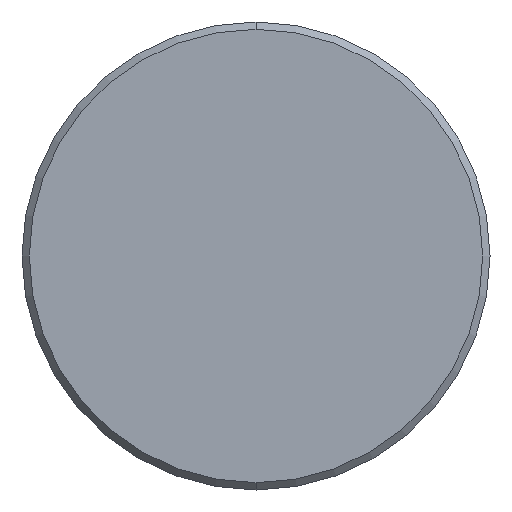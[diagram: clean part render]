
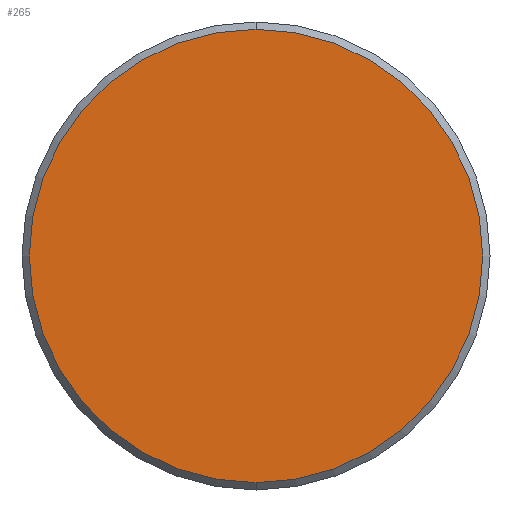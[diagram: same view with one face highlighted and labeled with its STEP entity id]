
A CAD part, front view. The second image highlights one B-rep face of the part: STEP entity #265.
In plain terms, the highlighted planar face has unit normal (0, -1, 0).
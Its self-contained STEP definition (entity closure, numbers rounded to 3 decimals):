
#1 = FACE_OUTER_BOUND ( 'NONE', #210, .T. ) ;
#4 = ORIENTED_EDGE ( 'NONE', *, *, #157, .T. ) ;
#27 = DIRECTION ( 'NONE',  ( 0., 0., 1. ) ) ;
#36 = EDGE_CURVE ( 'NONE', #125, #225, #169, .T. ) ;
#51 = AXIS2_PLACEMENT_3D ( 'NONE', #194, #105, #27 ) ;
#57 = DIRECTION ( 'NONE',  ( 0., -1., 0. ) ) ;
#73 = CARTESIAN_POINT ( 'NONE',  ( 0., 0., 0. ) ) ;
#76 = CARTESIAN_POINT ( 'NONE',  ( 0., 0., -3.875 ) ) ;
#82 = PLANE ( 'NONE',  #51 ) ;
#85 = CARTESIAN_POINT ( 'NONE',  ( 0., 0., 3.875 ) ) ;
#90 = DIRECTION ( 'NONE',  ( 0., -1., 0. ) ) ;
#105 = DIRECTION ( 'NONE',  ( 0., 1., 0. ) ) ;
#125 = VERTEX_POINT ( 'NONE', #76 ) ;
#147 = ORIENTED_EDGE ( 'NONE', *, *, #36, .T. ) ;
#157 = EDGE_CURVE ( 'NONE', #225, #125, #177, .T. ) ;
#169 = CIRCLE ( 'NONE', #197, 3.875 ) ;
#177 = CIRCLE ( 'NONE', #243, 3.875 ) ;
#194 = CARTESIAN_POINT ( 'NONE',  ( 0., 0., 0. ) ) ;
#197 = AXIS2_PLACEMENT_3D ( 'NONE', #73, #90, #248 ) ;
#210 = EDGE_LOOP ( 'NONE', ( #4, #147 ) ) ;
#225 = VERTEX_POINT ( 'NONE', #85 ) ;
#226 = CARTESIAN_POINT ( 'NONE',  ( 0., 0., 0. ) ) ;
#243 = AXIS2_PLACEMENT_3D ( 'NONE', #226, #57, #255 ) ;
#248 = DIRECTION ( 'NONE',  ( 0., 0., 1. ) ) ;
#255 = DIRECTION ( 'NONE',  ( 0., 0., 1. ) ) ;
#265 = ADVANCED_FACE ( 'NONE', ( #1 ), #82, .F. ) ;
